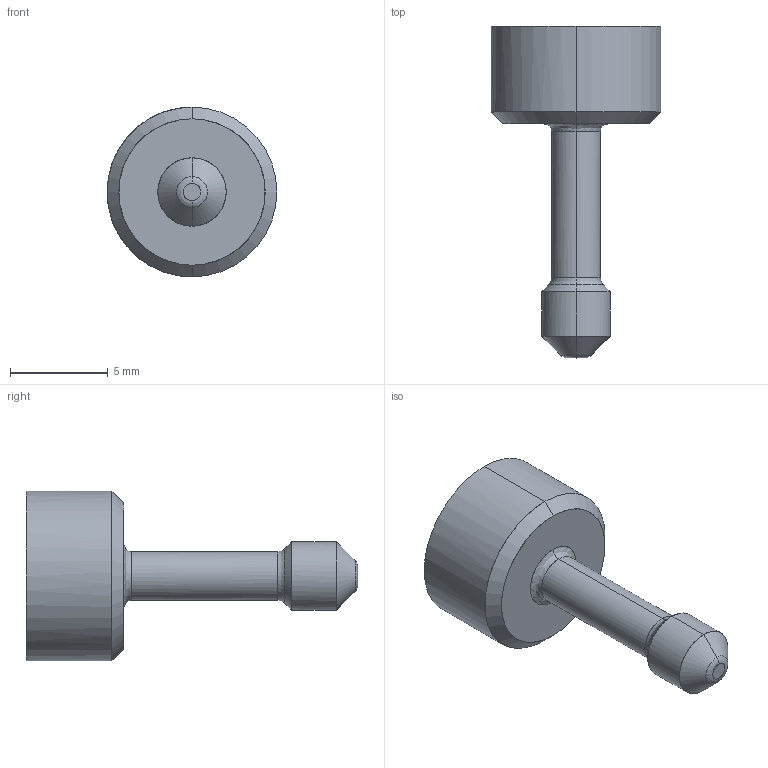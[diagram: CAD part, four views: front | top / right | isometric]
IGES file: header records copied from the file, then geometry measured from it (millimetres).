
Start section: START RECORD GO HERE.
Global section: file name: ia8717sf.igs; native system: DASSAULT SYSTEMES CATIA V5 R20 - www.3ds.com; preprocessor: CATIA Version 5 Release 20 ; author: Utente; organization: NB04-ASUS; date: 20201108.074435; units: millimetre
Bounding box: 8.7 x 17 x 8.7 mm (x, y, z)
Surface area: 358.5 mm2 (no closed solid volume)
Topology: 0 solids, 0 shells, 34 faces, 152 edges, 152 vertices
Faces by surface type: revolution 24, plane 10
